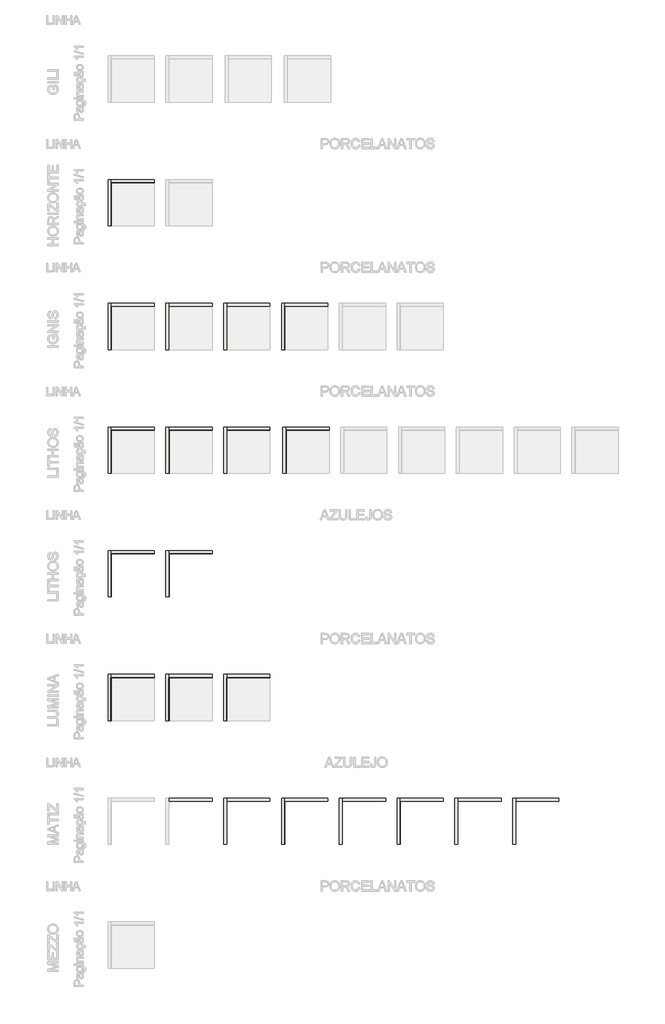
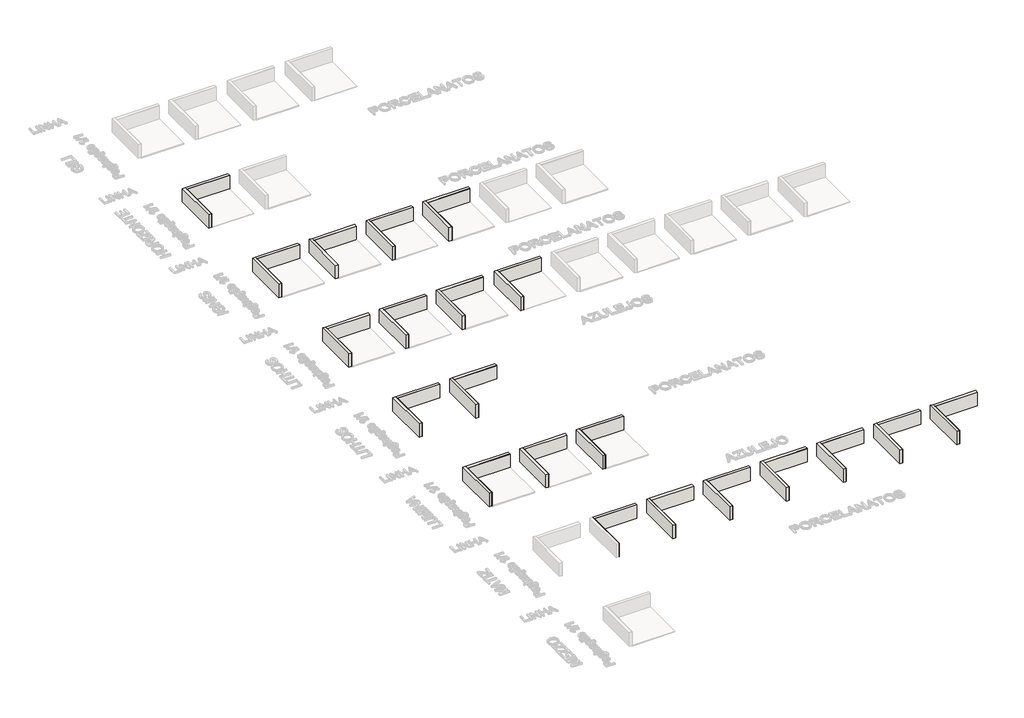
# One storey, part 3 of 22: 83 walls.
"""IFC4 building model written with IfcOpenShell, lengths in millimetres."""

from ifc_helpers import new_model, si_unit, origin, origin_with_axes, place, context, project, spatial, polyline, outline, extrude, faceted_brep, element, save

model = new_model("IFC4")

# Units and contexts
model_context = context("Model", 3, world=origin())
ifc_project = project(units=[si_unit("LENGTHUNIT", "METRE", prefix="MILLI")], contexts=[model_context])

# Site, building, storey
site = spatial("IfcSite", under=ifc_project)
building = spatial("IfcBuilding", under=site)
storey = spatial("IfcBuildingStorey", under=building, Name="Showroom (N.A.)", Elevation=0.0)

# Walls
placement = place(None, origin())
element("IfcWall", 1, ObjectType="Portinari_Lithos_BK_DECOR_29,1x87,7_Pag-1/1", at=placement, inside=storey, context=model_context, shape_type="Brep", body=[
    faceted_brep([(-110055.7516826, -131037.5892857, 0.0), (-110038.7516826, -131037.5892857, 0.0), (-107054.0516826, -131037.5892857, 0.0), (-107054.0516826, -131037.5892857, 1000.0), (-110038.7516826, -131037.5892857, 1000.0), (-110055.7516826, -131037.5892857, 1000.0), (-110055.7516826, -131020.5892857, 0.0), (-110055.7516826, -131020.5892857, 1000.0), (-107054.0516826, -131020.5892857, 1000.0), (-107054.0516826, -131020.5892857, 0.0)], [[[0, 1, 2, 3, 4, 5]], [[6, 7, 8, 9]], [[2, 1, 0, 6, 9]], [[3, 2, 9, 8]], [[5, 4, 3, 8, 7]], [[0, 5, 7, 6]]]),
])
element("IfcWall", 2, ObjectType="Portinari_Lithos_BK_DECOR_29,1x87,7_Pag-1/1", at=placement, inside=storey, context=model_context, shape_type="SweptSolid", body=[
    extrude(outline(polyline([(-110055.7516826, -134022.2892857), (-110055.7516826, -131037.5892857), (-110038.7516826, -131037.5892857), (-110038.7516826, -134022.2892857), (-110055.7516826, -134022.2892857)])), origin_with_axes(), (0.0, 0.0, 1.0), 1000.0),
])
element("IfcWall", 3, ObjectType="Portinari_Lithos_SGR_DECOR_29,1x87,7_Pag-1/1", at=placement, inside=storey, context=model_context, shape_type="Brep", body=[
    faceted_brep([(-106054.0516826, -131039.2892857, 0.0), (-106037.0516826, -131039.2892857, 0.0), (-103054.0516826, -131039.2892857, 0.0), (-103054.0516826, -131039.2892857, 1000.0), (-106037.0516826, -131039.2892857, 1000.0), (-106054.0516826, -131039.2892857, 1000.0), (-106054.0516826, -131022.2892857, 0.0), (-106054.0516826, -131022.2892857, 1000.0), (-103054.0516826, -131022.2892857, 1000.0), (-103054.0516826, -131022.2892857, 0.0)], [[[0, 1, 2, 3, 4, 5]], [[6, 7, 8, 9]], [[2, 1, 0, 6, 9]], [[3, 2, 9, 8]], [[5, 4, 3, 8, 7]], [[0, 5, 7, 6]]]),
])
element("IfcWall", 4, ObjectType="Portinari_Lithos_SGR_DECOR_29,1x87,7_Pag-1/1", at=placement, inside=storey, context=model_context, shape_type="SweptSolid", body=[
    extrude(outline(polyline([(-106054.0516826, -134022.2892857), (-106054.0516826, -131039.2892857), (-106037.0516826, -131039.2892857), (-106037.0516826, -134022.2892857), (-106054.0516826, -134022.2892857)])), origin_with_axes(), (0.0, 0.0, 1.0), 1000.0),
])
element("IfcWall", 5, ObjectType="Portinari_Matiz_BE_LUX_8,24x25,75_Pag-1/1", at=placement, inside=storey, context=model_context, shape_type="Brep", body=[
    faceted_brep([(-103054.0516826, -148149.0310434, 0.0), (-106054.0516826, -148149.0310434, 0.0), (-106054.0516826, -148149.0310434, 1000.0), (-103054.0516826, -148149.0310434, 1000.0), (-103054.0516826, -148161.4310434, 0.0), (-103054.0516826, -148161.4310434, 1000.0), (-106041.6516826, -148161.4310434, 1000.0), (-106054.0516826, -148161.4310434, 1000.0), (-106054.0516826, -148161.4310434, 0.0), (-106041.6516826, -148161.4310434, 0.0)], [[[0, 1, 2, 3]], [[4, 5, 6, 7, 8, 9]], [[1, 0, 4, 9, 8]], [[3, 2, 7, 6, 5]], [[0, 3, 5, 4]], [[2, 1, 8, 7]]]),
])
element("IfcWall", 6, ObjectType="Portinari_Matiz_BE_LUX_8,24x25,75_Pag-1/1", at=placement, inside=storey, context=model_context, shape_type="SweptSolid", body=[
    extrude(outline(polyline([(-106054.0516826, -151149.0310434), (-106054.0516826, -148161.4310434), (-106041.6516826, -148161.4310434), (-106041.6516826, -151149.0310434), (-106054.0516826, -151149.0310434)])), origin_with_axes(), (0.0, 0.0, 1.0), 1000.0),
])
element("IfcWall", 7, ObjectType="Portinari_Matiz_OG_LUX_8,24x25,75_Pag-1/1", at=placement, inside=storey, context=model_context, shape_type="Brep", body=[
    faceted_brep([(-99054.0516826, -148149.0310434, 0.0), (-102054.0516826, -148149.0310434, 0.0), (-102054.0516826, -148149.0310434, 1000.0), (-99054.0516826, -148149.0310434, 1000.0), (-99054.0516826, -148161.4310434, 0.0), (-99054.0516826, -148161.4310434, 1000.0), (-102041.6516826, -148161.4310434, 1000.0), (-102054.0516826, -148161.4310434, 1000.0), (-102054.0516826, -148161.4310434, 0.0), (-102041.6516826, -148161.4310434, 0.0)], [[[0, 1, 2, 3]], [[4, 5, 6, 7, 8, 9]], [[1, 0, 4, 9, 8]], [[3, 2, 7, 6, 5]], [[0, 3, 5, 4]], [[2, 1, 8, 7]]]),
])
element("IfcWall", 8, ObjectType="Portinari_Matiz_OG_LUX_8,24x25,75_Pag-1/1", at=placement, inside=storey, context=model_context, shape_type="SweptSolid", body=[
    extrude(outline(polyline([(-102054.0516826, -151149.0310434), (-102054.0516826, -148161.4310434), (-102041.6516826, -148161.4310434), (-102041.6516826, -151149.0310434), (-102054.0516826, -151149.0310434)])), origin_with_axes(), (0.0, 0.0, 1.0), 1000.0),
])
element("IfcWall", 9, ObjectType="Portinari_Matiz_PK_LUX_8,24x25,75_Pag-1/1", at=placement, inside=storey, context=model_context, shape_type="Brep", body=[
    faceted_brep([(-95054.0516826, -148149.0310434, 0.0), (-98054.0516826, -148149.0310434, 0.0), (-98054.0516826, -148149.0310434, 1000.0), (-95054.0516826, -148149.0310434, 1000.0), (-95054.0516826, -148161.4310434, 0.0), (-95054.0516826, -148161.4310434, 1000.0), (-98041.6516826, -148161.4310434, 1000.0), (-98054.0516826, -148161.4310434, 1000.0), (-98054.0516826, -148161.4310434, 0.0), (-98041.6516826, -148161.4310434, 0.0)], [[[0, 1, 2, 3]], [[4, 5, 6, 7, 8, 9]], [[1, 0, 4, 9, 8]], [[3, 2, 7, 6, 5]], [[0, 3, 5, 4]], [[2, 1, 8, 7]]]),
])
element("IfcWall", 10, ObjectType="Portinari_Matiz_PK_LUX_8,24x25,75_Pag-1/1", at=placement, inside=storey, context=model_context, shape_type="SweptSolid", body=[
    extrude(outline(polyline([(-98054.0516826, -151149.0310434), (-98054.0516826, -148161.4310434), (-98041.6516826, -148161.4310434), (-98041.6516826, -151149.0310434), (-98054.0516826, -151149.0310434)])), origin_with_axes(), (0.0, 0.0, 1.0), 1000.0),
])
element("IfcWall", 11, ObjectType="Portinari_Matiz_BL_LUX_8,24x25,75_Pag-1/1", at=placement, inside=storey, context=model_context, shape_type="Brep", body=[
    faceted_brep([(-91054.0516826, -148149.0310434, 0.0), (-94054.0516826, -148149.0310434, 0.0), (-94054.0516826, -148149.0310434, 1000.0), (-91054.0516826, -148149.0310434, 1000.0), (-91054.0516826, -148161.4310434, 0.0), (-91054.0516826, -148161.4310434, 1000.0), (-94041.6516826, -148161.4310434, 1000.0), (-94054.0516826, -148161.4310434, 1000.0), (-94054.0516826, -148161.4310434, 0.0), (-94041.6516826, -148161.4310434, 0.0)], [[[0, 1, 2, 3]], [[4, 5, 6, 7, 8, 9]], [[1, 0, 4, 9, 8]], [[3, 2, 7, 6, 5]], [[0, 3, 5, 4]], [[2, 1, 8, 7]]]),
])
element("IfcWall", 12, ObjectType="Portinari_Matiz_BL_LUX_8,24x25,75_Pag-1/1", at=placement, inside=storey, context=model_context, shape_type="SweptSolid", body=[
    extrude(outline(polyline([(-94054.0516826, -151149.0310434), (-94054.0516826, -148161.4310434), (-94041.6516826, -148161.4310434), (-94041.6516826, -151149.0310434), (-94054.0516826, -151149.0310434)])), origin_with_axes(), (0.0, 0.0, 1.0), 1000.0),
])
element("IfcWall", 13, ObjectType="Portinari_Matiz_SBL_LUX_8,24x25,75_Pag-1/1", at=placement, inside=storey, context=model_context, shape_type="Brep", body=[
    faceted_brep([(-87054.0516826, -148149.0310434, 0.0), (-90054.0516826, -148149.0310434, 0.0), (-90054.0516826, -148149.0310434, 1000.0), (-87054.0516826, -148149.0310434, 1000.0), (-87054.0516826, -148161.4310434, 0.0), (-87054.0516826, -148161.4310434, 1000.0), (-90041.6516826, -148161.4310434, 1000.0), (-90054.0516826, -148161.4310434, 1000.0), (-90054.0516826, -148161.4310434, 0.0), (-90041.6516826, -148161.4310434, 0.0)], [[[0, 1, 2, 3]], [[4, 5, 6, 7, 8, 9]], [[1, 0, 4, 9, 8]], [[3, 2, 7, 6, 5]], [[0, 3, 5, 4]], [[2, 1, 8, 7]]]),
])
element("IfcWall", 14, ObjectType="Portinari_Matiz_SBL_LUX_8,24x25,75_Pag-1/1", at=placement, inside=storey, context=model_context, shape_type="SweptSolid", body=[
    extrude(outline(polyline([(-90054.0516826, -151149.0310434), (-90054.0516826, -148161.4310434), (-90041.6516826, -148161.4310434), (-90041.6516826, -151149.0310434), (-90054.0516826, -151149.0310434)])), origin_with_axes(), (0.0, 0.0, 1.0), 1000.0),
])
element("IfcWall", 15, ObjectType="Portinari_Matiz_SGN_LUX_8,24x25,75_Pag-1/1", at=placement, inside=storey, context=model_context, shape_type="Brep", body=[
    faceted_brep([(-83054.0516826, -148149.0310434, 0.0), (-86054.0516826, -148149.0310434, 0.0), (-86054.0516826, -148149.0310434, 1000.0), (-83054.0516826, -148149.0310434, 1000.0), (-83054.0516826, -148161.4310434, 0.0), (-83054.0516826, -148161.4310434, 1000.0), (-86041.6516826, -148161.4310434, 1000.0), (-86054.0516826, -148161.4310434, 1000.0), (-86054.0516826, -148161.4310434, 0.0), (-86041.6516826, -148161.4310434, 0.0)], [[[0, 1, 2, 3]], [[4, 5, 6, 7, 8, 9]], [[1, 0, 4, 9, 8]], [[3, 2, 7, 6, 5]], [[0, 3, 5, 4]], [[2, 1, 8, 7]]]),
])
element("IfcWall", 16, ObjectType="Portinari_Matiz_SGN_LUX_8,24x25,75_Pag-1/1", at=placement, inside=storey, context=model_context, shape_type="SweptSolid", body=[
    extrude(outline(polyline([(-86054.0516826, -151149.0310434), (-86054.0516826, -148161.4310434), (-86041.6516826, -148161.4310434), (-86041.6516826, -151149.0310434), (-86054.0516826, -151149.0310434)])), origin_with_axes(), (0.0, 0.0, 1.0), 1000.0),
])
element("IfcWall", 17, ObjectType="Portinari_Matiz_WH_LUX_8,24x25,75_Pag-1/1", at=placement, inside=storey, context=model_context, shape_type="Brep", body=[
    faceted_brep([(-79054.0516826, -148149.0310434, 0.0), (-82054.0516826, -148149.0310434, 0.0), (-82054.0516826, -148149.0310434, 1000.0), (-79054.0516826, -148149.0310434, 1000.0), (-79054.0516826, -148161.4310434, 0.0), (-79054.0516826, -148161.4310434, 1000.0), (-82041.6516826, -148161.4310434, 1000.0), (-82054.0516826, -148161.4310434, 1000.0), (-82054.0516826, -148161.4310434, 0.0), (-82041.6516826, -148161.4310434, 0.0)], [[[0, 1, 2, 3]], [[4, 5, 6, 7, 8, 9]], [[1, 0, 4, 9, 8]], [[3, 2, 7, 6, 5]], [[0, 3, 5, 4]], [[2, 1, 8, 7]]]),
])
element("IfcWall", 18, ObjectType="Portinari_Matiz_WH_LUX_8,24x25,75_Pag-1/1", at=placement, inside=storey, context=model_context, shape_type="SweptSolid", body=[
    extrude(outline(polyline([(-82054.0516826, -151149.0310434), (-82054.0516826, -148161.4310434), (-82041.6516826, -148161.4310434), (-82041.6516826, -151149.0310434), (-82054.0516826, -151149.0310434)])), origin_with_axes(), (0.0, 0.0, 1.0), 1000.0),
])
element("IfcWall", 19, ObjectType="Portinari_Horizonte_BL_MLX_15x15_Pag-1/1", at=placement, inside=storey, context=model_context, shape_type="Brep", body=[
    faceted_brep([(-107054.0516826, -105332.1766491, 0.0), (-110054.0516826, -105332.1766491, 0.0), (-110054.0516826, -105332.1766491, 1000.0), (-107054.0516826, -105332.1766491, 1000.0), (-107054.0516826, -105344.5766491, 0.0), (-107054.0516826, -105344.5766491, 1000.0), (-110041.6516826, -105344.5766491, 1000.0), (-110054.0516826, -105344.5766491, 1000.0), (-110054.0516826, -105344.5766491, 0.0), (-110041.6516826, -105344.5766491, 0.0)], [[[0, 1, 2, 3]], [[4, 5, 6, 7, 8, 9]], [[1, 0, 4, 9, 8]], [[3, 2, 7, 6, 5]], [[0, 3, 5, 4]], [[2, 1, 8, 7]]]),
])
element("IfcWall", 20, ObjectType="Portinari_Horizonte_BL_MLX_15x15_Pag-1/1", at=placement, inside=storey, context=model_context, shape_type="SweptSolid", body=[
    extrude(outline(polyline([(-110054.0516826, -108332.1766491), (-110054.0516826, -105344.5766491), (-110041.6516826, -105344.5766491), (-110041.6516826, -108332.1766491), (-110054.0516826, -108332.1766491)])), origin_with_axes(), (0.0, 0.0, 1.0), 1000.0),
])
element("IfcWall", 21, ObjectType="Portinari_Ignis_Decor_GR_NAT_15x15_Pag-1/1", at=placement, inside=storey, context=model_context, shape_type="Brep", body=[
    faceted_brep([(-107054.0516826, -113895.547528, 0.0), (-110054.0516826, -113895.547528, 0.0), (-110054.0516826, -113895.547528, 1000.0), (-107054.0516826, -113895.547528, 1000.0), (-107054.0516826, -113907.947528, 0.0), (-107054.0516826, -113907.947528, 1000.0), (-110041.6516826, -113907.947528, 1000.0), (-110054.0516826, -113907.947528, 1000.0), (-110054.0516826, -113907.947528, 0.0), (-110041.6516826, -113907.947528, 0.0)], [[[0, 1, 2, 3]], [[4, 5, 6, 7, 8, 9]], [[1, 0, 4, 9, 8]], [[3, 2, 7, 6, 5]], [[0, 3, 5, 4]], [[2, 1, 8, 7]]]),
])
element("IfcWall", 22, ObjectType="Portinari_Ignis_Decor_GR_NAT_15x15_Pag-1/1", at=placement, inside=storey, context=model_context, shape_type="SweptSolid", body=[
    extrude(outline(polyline([(-110054.0516826, -116895.547528), (-110054.0516826, -113907.947528), (-110041.6516826, -113907.947528), (-110041.6516826, -116895.547528), (-110054.0516826, -116895.547528)])), origin_with_axes(), (0.0, 0.0, 1.0), 1000.0),
])
element("IfcWall", 23, ObjectType="Portinari_Ignis_Decor_BK_NAT_15x15_Pag-1/1", at=placement, inside=storey, context=model_context, shape_type="Brep", body=[
    faceted_brep([(-103054.0516826, -113895.547528, 0.0), (-106054.0516826, -113895.547528, 0.0), (-106054.0516826, -113895.547528, 1000.0), (-103054.0516826, -113895.547528, 1000.0), (-103054.0516826, -113907.947528, 0.0), (-103054.0516826, -113907.947528, 1000.0), (-106041.6516826, -113907.947528, 1000.0), (-106054.0516826, -113907.947528, 1000.0), (-106054.0516826, -113907.947528, 0.0), (-106041.6516826, -113907.947528, 0.0)], [[[0, 1, 2, 3]], [[4, 5, 6, 7, 8, 9]], [[1, 0, 4, 9, 8]], [[3, 2, 7, 6, 5]], [[0, 3, 5, 4]], [[2, 1, 8, 7]]]),
])
element("IfcWall", 24, ObjectType="Portinari_Ignis_Decor_BK_NAT_15x15_Pag-1/1", at=placement, inside=storey, context=model_context, shape_type="SweptSolid", body=[
    extrude(outline(polyline([(-106054.0516826, -116895.547528), (-106054.0516826, -113907.947528), (-106041.6516826, -113907.947528), (-106041.6516826, -116895.547528), (-106054.0516826, -116895.547528)])), origin_with_axes(), (0.0, 0.0, 1.0), 1000.0),
])
element("IfcWall", 25, ObjectType="Portinari_Ignis_GR_HARD_87,7x87,7_Pag-1/1", at=placement, inside=storey, context=model_context, shape_type="Brep", body=[
    faceted_brep([(-99054.0516826, -113895.547528, 0.0), (-102054.0516826, -113895.547528, 0.0), (-102054.0516826, -113895.547528, 1000.0), (-99054.0516826, -113895.547528, 1000.0), (-99054.0516826, -113909.547528, 0.0), (-99054.0516826, -113909.547528, 1000.0), (-102040.0516826, -113909.547528, 1000.0), (-102054.0516826, -113909.547528, 1000.0), (-102054.0516826, -113909.547528, 0.0), (-102040.0516826, -113909.547528, 0.0)], [[[0, 1, 2, 3]], [[4, 5, 6, 7, 8, 9]], [[1, 0, 4, 9, 8]], [[3, 2, 7, 6, 5]], [[0, 3, 5, 4]], [[2, 1, 8, 7]]]),
])
element("IfcWall", 26, ObjectType="Portinari_Ignis_GR_HARD_87,7x87,7_Pag-1/1", at=placement, inside=storey, context=model_context, shape_type="SweptSolid", body=[
    extrude(outline(polyline([(-102054.0516826, -116895.547528), (-102054.0516826, -113909.547528), (-102040.0516826, -113909.547528), (-102040.0516826, -116895.547528), (-102054.0516826, -116895.547528)])), origin_with_axes(), (0.0, 0.0, 1.0), 1000.0),
])
element("IfcWall", 27, ObjectType="Portinari_Ignis_BK_NAT_87,7x87,7_Pag-1/1", at=placement, inside=storey, context=model_context, shape_type="Brep", body=[
    faceted_brep([(-95054.0516826, -113895.547528, 0.0), (-98054.0516826, -113895.547528, 0.0), (-98054.0516826, -113895.547528, 1000.0), (-95054.0516826, -113895.547528, 1000.0), (-95054.0516826, -113909.547528, 0.0), (-95054.0516826, -113909.547528, 1000.0), (-98040.0516826, -113909.547528, 1000.0), (-98054.0516826, -113909.547528, 1000.0), (-98054.0516826, -113909.547528, 0.0), (-98040.0516826, -113909.547528, 0.0)], [[[0, 1, 2, 3]], [[4, 5, 6, 7, 8, 9]], [[1, 0, 4, 9, 8]], [[3, 2, 7, 6, 5]], [[0, 3, 5, 4]], [[2, 1, 8, 7]]]),
])
element("IfcWall", 28, ObjectType="Portinari_Ignis_BK_NAT_87,7x87,7_Pag-1/1", at=placement, inside=storey, context=model_context, shape_type="SweptSolid", body=[
    extrude(outline(polyline([(-98054.0516826, -116895.547528), (-98054.0516826, -113909.547528), (-98040.0516826, -113909.547528), (-98040.0516826, -116895.547528), (-98054.0516826, -116895.547528)])), origin_with_axes(), (0.0, 0.0, 1.0), 1000.0),
])
element("IfcWall", 29, ObjectType="Portinari_Lithos_BK_NAT_120x120_Pag-1/1", at=placement, inside=storey, context=model_context, shape_type="Brep", body=[
    faceted_brep([(-107054.0516826, -122458.9184068, 0.0), (-110054.0516826, -122458.9184068, 0.0), (-110054.0516826, -122458.9184068, 1000.0), (-107054.0516826, -122458.9184068, 1000.0), (-107054.0516826, -122473.1184068, 0.0), (-107054.0516826, -122473.1184068, 1000.0), (-110039.8516826, -122473.1184068, 1000.0), (-110054.0516826, -122473.1184068, 1000.0), (-110054.0516826, -122473.1184068, 0.0), (-110039.8516826, -122473.1184068, 0.0)], [[[0, 1, 2, 3]], [[4, 5, 6, 7, 8, 9]], [[1, 0, 4, 9, 8]], [[3, 2, 7, 6, 5]], [[0, 3, 5, 4]], [[2, 1, 8, 7]]]),
])
element("IfcWall", 30, ObjectType="Portinari_Lithos_BK_NAT_120x120_Pag-1/1", at=placement, inside=storey, context=model_context, shape_type="SweptSolid", body=[
    extrude(outline(polyline([(-110054.0516826, -125458.9184068), (-110054.0516826, -122473.1184068), (-110039.8516826, -122473.1184068), (-110039.8516826, -125458.9184068), (-110054.0516826, -125458.9184068)])), origin_with_axes(), (0.0, 0.0, 1.0), 1000.0),
])
element("IfcWall", 31, ObjectType="Portinari_Lithos_GR_NAT_120x120_Pag-1/1", at=placement, inside=storey, context=model_context, shape_type="Brep", body=[
    faceted_brep([(-103054.0516826, -122458.9184068, 0.0), (-106054.0516826, -122458.9184068, 0.0), (-106054.0516826, -122458.9184068, 1000.0), (-103054.0516826, -122458.9184068, 1000.0), (-103054.0516826, -122473.1184068, 0.0), (-103054.0516826, -122473.1184068, 1000.0), (-106039.8516826, -122473.1184068, 1000.0), (-106054.0516826, -122473.1184068, 1000.0), (-106054.0516826, -122473.1184068, 0.0), (-106039.8516826, -122473.1184068, 0.0)], [[[0, 1, 2, 3]], [[4, 5, 6, 7, 8, 9]], [[1, 0, 4, 9, 8]], [[3, 2, 7, 6, 5]], [[0, 3, 5, 4]], [[2, 1, 8, 7]]]),
])
element("IfcWall", 32, ObjectType="Portinari_Lithos_GR_NAT_120x120_Pag-1/1", at=placement, inside=storey, context=model_context, shape_type="SweptSolid", body=[
    extrude(outline(polyline([(-106054.0516826, -125458.9184068), (-106054.0516826, -122473.1184068), (-106039.8516826, -122473.1184068), (-106039.8516826, -125458.9184068), (-106054.0516826, -125458.9184068)])), origin_with_axes(), (0.0, 0.0, 1.0), 1000.0),
])
element("IfcWall", 33, ObjectType="Portinari_Lithos_SGR_NAT_120x120_Pag-1/1", at=placement, inside=storey, context=model_context, shape_type="Brep", body=[
    faceted_brep([(-99054.0516826, -122458.9184068, 0.0), (-102054.0516826, -122458.9184068, 0.0), (-102054.0516826, -122458.9184068, 1000.0), (-99054.0516826, -122458.9184068, 1000.0), (-99054.0516826, -122473.1184068, 0.0), (-99054.0516826, -122473.1184068, 1000.0), (-102039.8516826, -122473.1184068, 1000.0), (-102054.0516826, -122473.1184068, 1000.0), (-102054.0516826, -122473.1184068, 0.0), (-102039.8516826, -122473.1184068, 0.0)], [[[0, 1, 2, 3]], [[4, 5, 6, 7, 8, 9]], [[1, 0, 4, 9, 8]], [[3, 2, 7, 6, 5]], [[0, 3, 5, 4]], [[2, 1, 8, 7]]]),
])
element("IfcWall", 34, ObjectType="Portinari_Lithos_SGR_NAT_120x120_Pag-1/1", at=placement, inside=storey, context=model_context, shape_type="SweptSolid", body=[
    extrude(outline(polyline([(-102054.0516826, -125458.9184068), (-102054.0516826, -122473.1184068), (-102039.8516826, -122473.1184068), (-102039.8516826, -125458.9184068), (-102054.0516826, -125458.9184068)])), origin_with_axes(), (0.0, 0.0, 1.0), 1000.0),
])
element("IfcWall", 35, ObjectType="Portinari_Lithos_BK_HARD_87,7x87,7_Pag-1/1", at=placement, inside=storey, context=model_context, shape_type="Brep", body=[
    faceted_brep([(-94954.0516826, -122458.9184068, 0.0), (-97954.0516826, -122458.9184068, 0.0), (-97954.0516826, -122458.9184068, 1000.0), (-94954.0516826, -122458.9184068, 1000.0), (-94954.0516826, -122472.9184068, 0.0), (-94954.0516826, -122472.9184068, 1000.0), (-97940.0516826, -122472.9184068, 1000.0), (-97954.0516826, -122472.9184068, 1000.0), (-97954.0516826, -122472.9184068, 0.0), (-97940.0516826, -122472.9184068, 0.0)], [[[0, 1, 2, 3]], [[4, 5, 6, 7, 8, 9]], [[1, 0, 4, 9, 8]], [[3, 2, 7, 6, 5]], [[0, 3, 5, 4]], [[2, 1, 8, 7]]]),
])
element("IfcWall", 36, ObjectType="Portinari_Lithos_BK_HARD_87,7x87,7_Pag-1/1", at=placement, inside=storey, context=model_context, shape_type="SweptSolid", body=[
    extrude(outline(polyline([(-97954.0516826, -125458.9184068), (-97954.0516826, -122472.9184068), (-97940.0516826, -122472.9184068), (-97940.0516826, -125458.9184068), (-97954.0516826, -125458.9184068)])), origin_with_axes(), (0.0, 0.0, 1.0), 1000.0),
])
element("IfcWall", 37, ObjectType="Portinari_Lumina_WH_NAT_120x120_Pag-1/1", at=placement, inside=storey, context=model_context, shape_type="Brep", body=[
    faceted_brep([(-107054.0516826, -139585.6601645, 0.0), (-110054.0516826, -139585.6601645, 0.0), (-110054.0516826, -139585.6601645, 1000.0), (-107054.0516826, -139585.6601645, 1000.0), (-107054.0516826, -139599.8601645, 0.0), (-107054.0516826, -139599.8601645, 1000.0), (-110039.8516826, -139599.8601645, 1000.0), (-110054.0516826, -139599.8601645, 1000.0), (-110054.0516826, -139599.8601645, 0.0), (-110039.8516826, -139599.8601645, 0.0)], [[[0, 1, 2, 3]], [[4, 5, 6, 7, 8, 9]], [[1, 0, 4, 9, 8]], [[3, 2, 7, 6, 5]], [[0, 3, 5, 4]], [[2, 1, 8, 7]]]),
])
element("IfcWall", 38, ObjectType="Portinari_Lumina_WH_NAT_120x120_Pag-1/1", at=placement, inside=storey, context=model_context, shape_type="SweptSolid", body=[
    extrude(outline(polyline([(-110054.0516826, -142585.6601645), (-110054.0516826, -139599.8601645), (-110039.8516826, -139599.8601645), (-110039.8516826, -142585.6601645), (-110054.0516826, -142585.6601645)])), origin_with_axes(), (0.0, 0.0, 1.0), 1000.0),
])
element("IfcWall", 39, ObjectType="Portinari_Lumina_WH_POL_120x120_Pag-1/1", at=placement, inside=storey, context=model_context, shape_type="Brep", body=[
    faceted_brep([(-103054.0516826, -139585.6601645, 0.0), (-106054.0516826, -139585.6601645, 0.0), (-106054.0516826, -139585.6601645, 1000.0), (-103054.0516826, -139585.6601645, 1000.0), (-103054.0516826, -139599.8601645, 0.0), (-103054.0516826, -139599.8601645, 1000.0), (-106039.8516826, -139599.8601645, 1000.0), (-106054.0516826, -139599.8601645, 1000.0), (-106054.0516826, -139599.8601645, 0.0), (-106039.8516826, -139599.8601645, 0.0)], [[[0, 1, 2, 3]], [[4, 5, 6, 7, 8, 9]], [[1, 0, 4, 9, 8]], [[3, 2, 7, 6, 5]], [[0, 3, 5, 4]], [[2, 1, 8, 7]]]),
])
element("IfcWall", 40, ObjectType="Portinari_Lumina_WH_POL_120x120_Pag-1/1", at=placement, inside=storey, context=model_context, shape_type="SweptSolid", body=[
    extrude(outline(polyline([(-106054.0516826, -142585.6601645), (-106054.0516826, -139599.8601645), (-106039.8516826, -139599.8601645), (-106039.8516826, -142585.6601645), (-106054.0516826, -142585.6601645)])), origin_with_axes(), (0.0, 0.0, 1.0), 1000.0),
])
element("IfcWall", 41, ObjectType="Portinari_Lumina_WH_POL_120x270_Pag-1/1", at=placement, inside=storey, context=model_context, shape_type="Brep", body=[
    faceted_brep([(-99054.0516826, -139585.6601645, 0.0), (-102054.0516826, -139585.6601645, 0.0), (-102054.0516826, -139585.6601645, 1000.0), (-99054.0516826, -139585.6601645, 1000.0), (-99054.0516826, -139599.6601645, 0.0), (-99054.0516826, -139599.6601645, 1000.0), (-102040.0516826, -139599.6601645, 1000.0), (-102054.0516826, -139599.6601645, 1000.0), (-102054.0516826, -139599.6601645, 0.0), (-102040.0516826, -139599.6601645, 0.0)], [[[0, 1, 2, 3]], [[4, 5, 6, 7, 8, 9]], [[1, 0, 4, 9, 8]], [[3, 2, 7, 6, 5]], [[0, 3, 5, 4]], [[2, 1, 8, 7]]]),
])
element("IfcWall", 42, ObjectType="Portinari_Lumina_WH_POL_120x270_Pag-1/1", at=placement, inside=storey, context=model_context, shape_type="SweptSolid", body=[
    extrude(outline(polyline([(-102054.0516826, -142585.6601645), (-102054.0516826, -139599.6601645), (-102040.0516826, -139599.6601645), (-102040.0516826, -142585.6601645), (-102054.0516826, -142585.6601645)])), origin_with_axes(), (0.0, 0.0, 1.0), 1000.0),
])
element("IfcWall", 43, ObjectType="Wall 1", at=placement, inside=storey, context=model_context, shape_type="Brep", body=[
    faceted_brep([(-110054.0516826, -108332.1766491, 0.0), (-110054.0516826, -105332.1766491, 0.0), (-110054.0516826, -105132.1766491, 0.0), (-110054.0516826, -105132.1766491, 1000.0), (-110054.0516826, -105332.1766491, 1000.0), (-110054.0516826, -108332.1766491, 1000.0), (-110254.0516826, -108332.1766491, 0.0), (-110254.0516826, -108332.1766491, 1000.0), (-110254.0516826, -105132.1766491, 1000.0), (-110254.0516826, -105132.1766491, 0.0)], [[[0, 1, 2, 3, 4, 5]], [[6, 7, 8, 9]], [[2, 1, 0, 6, 9]], [[5, 4, 3, 8, 7]], [[0, 5, 7, 6]], [[3, 2, 9, 8]]]),
])
element("IfcWall", 44, ObjectType="Wall 1", at=placement, inside=storey, context=model_context, shape_type="SweptSolid", body=[
    extrude(outline(polyline([(-107054.0516826, -105332.1766491), (-110054.0516826, -105332.1766491), (-110054.0516826, -105132.1766491), (-107054.0516826, -105132.1766491), (-107054.0516826, -105332.1766491)])), origin_with_axes(), (0.0, 0.0, 1.0), 1000.0),
])
element("IfcWall", 45, ObjectType="Wall 1", at=placement, inside=storey, context=model_context, shape_type="Brep", body=[
    faceted_brep([(-110054.0516826, -116895.547528, 0.0), (-110054.0516826, -113895.547528, 0.0), (-110054.0516826, -113695.547528, 0.0), (-110054.0516826, -113695.547528, 1000.0), (-110054.0516826, -113895.547528, 1000.0), (-110054.0516826, -116895.547528, 1000.0), (-110254.0516826, -116895.547528, 0.0), (-110254.0516826, -116895.547528, 1000.0), (-110254.0516826, -113695.547528, 1000.0), (-110254.0516826, -113695.547528, 0.0)], [[[0, 1, 2, 3, 4, 5]], [[6, 7, 8, 9]], [[2, 1, 0, 6, 9]], [[5, 4, 3, 8, 7]], [[0, 5, 7, 6]], [[3, 2, 9, 8]]]),
])
element("IfcWall", 46, ObjectType="Wall 1", at=placement, inside=storey, context=model_context, shape_type="SweptSolid", body=[
    extrude(outline(polyline([(-107054.0516826, -113895.547528), (-110054.0516826, -113895.547528), (-110054.0516826, -113695.547528), (-107054.0516826, -113695.547528), (-107054.0516826, -113895.547528)])), origin_with_axes(), (0.0, 0.0, 1.0), 1000.0),
])
element("IfcWall", 47, ObjectType="Wall 1", at=placement, inside=storey, context=model_context, shape_type="Brep", body=[
    faceted_brep([(-106054.0516826, -116895.547528, 0.0), (-106054.0516826, -113895.547528, 0.0), (-106054.0516826, -113695.547528, 0.0), (-106054.0516826, -113695.547528, 1000.0), (-106054.0516826, -113895.547528, 1000.0), (-106054.0516826, -116895.547528, 1000.0), (-106254.0516826, -116895.547528, 0.0), (-106254.0516826, -116895.547528, 1000.0), (-106254.0516826, -113695.547528, 1000.0), (-106254.0516826, -113695.547528, 0.0)], [[[0, 1, 2, 3, 4, 5]], [[6, 7, 8, 9]], [[2, 1, 0, 6, 9]], [[5, 4, 3, 8, 7]], [[0, 5, 7, 6]], [[3, 2, 9, 8]]]),
])
element("IfcWall", 48, ObjectType="Wall 1", at=placement, inside=storey, context=model_context, shape_type="SweptSolid", body=[
    extrude(outline(polyline([(-103054.0516826, -113895.547528), (-106054.0516826, -113895.547528), (-106054.0516826, -113695.547528), (-103054.0516826, -113695.547528), (-103054.0516826, -113895.547528)])), origin_with_axes(), (0.0, 0.0, 1.0), 1000.0),
])
element("IfcWall", 49, ObjectType="Wall 1", at=placement, inside=storey, context=model_context, shape_type="Brep", body=[
    faceted_brep([(-102054.0516826, -116895.547528, 0.0), (-102054.0516826, -113895.547528, 0.0), (-102054.0516826, -113695.547528, 0.0), (-102054.0516826, -113695.547528, 1000.0), (-102054.0516826, -113895.547528, 1000.0), (-102054.0516826, -116895.547528, 1000.0), (-102254.0516826, -116895.547528, 0.0), (-102254.0516826, -116895.547528, 1000.0), (-102254.0516826, -113695.547528, 1000.0), (-102254.0516826, -113695.547528, 0.0)], [[[0, 1, 2, 3, 4, 5]], [[6, 7, 8, 9]], [[2, 1, 0, 6, 9]], [[5, 4, 3, 8, 7]], [[0, 5, 7, 6]], [[3, 2, 9, 8]]]),
])
element("IfcWall", 50, ObjectType="Wall 1", at=placement, inside=storey, context=model_context, shape_type="SweptSolid", body=[
    extrude(outline(polyline([(-99054.0516826, -113895.547528), (-102054.0516826, -113895.547528), (-102054.0516826, -113695.547528), (-99054.0516826, -113695.547528), (-99054.0516826, -113895.547528)])), origin_with_axes(), (0.0, 0.0, 1.0), 1000.0),
])
element("IfcWall", 51, ObjectType="Wall 1", at=placement, inside=storey, context=model_context, shape_type="Brep", body=[
    faceted_brep([(-98054.0516826, -116895.547528, 0.0), (-98054.0516826, -113895.547528, 0.0), (-98054.0516826, -113695.547528, 0.0), (-98054.0516826, -113695.547528, 1000.0), (-98054.0516826, -113895.547528, 1000.0), (-98054.0516826, -116895.547528, 1000.0), (-98254.0516826, -116895.547528, 0.0), (-98254.0516826, -116895.547528, 1000.0), (-98254.0516826, -113695.547528, 1000.0), (-98254.0516826, -113695.547528, 0.0)], [[[0, 1, 2, 3, 4, 5]], [[6, 7, 8, 9]], [[2, 1, 0, 6, 9]], [[5, 4, 3, 8, 7]], [[0, 5, 7, 6]], [[3, 2, 9, 8]]]),
])
element("IfcWall", 52, ObjectType="Wall 1", at=placement, inside=storey, context=model_context, shape_type="SweptSolid", body=[
    extrude(outline(polyline([(-95054.0516826, -113895.547528), (-98054.0516826, -113895.547528), (-98054.0516826, -113695.547528), (-95054.0516826, -113695.547528), (-95054.0516826, -113895.547528)])), origin_with_axes(), (0.0, 0.0, 1.0), 1000.0),
])
element("IfcWall", 53, ObjectType="Wall 1", at=placement, inside=storey, context=model_context, shape_type="Brep", body=[
    faceted_brep([(-110054.0516826, -125458.9184068, 0.0), (-110054.0516826, -122458.9184068, 0.0), (-110054.0516826, -122258.9184068, 0.0), (-110054.0516826, -122258.9184068, 1000.0), (-110054.0516826, -122458.9184068, 1000.0), (-110054.0516826, -125458.9184068, 1000.0), (-110254.0516826, -125458.9184068, 0.0), (-110254.0516826, -125458.9184068, 1000.0), (-110254.0516826, -122258.9184068, 1000.0), (-110254.0516826, -122258.9184068, 0.0)], [[[0, 1, 2, 3, 4, 5]], [[6, 7, 8, 9]], [[2, 1, 0, 6, 9]], [[5, 4, 3, 8, 7]], [[0, 5, 7, 6]], [[3, 2, 9, 8]]]),
])
element("IfcWall", 54, ObjectType="Wall 1", at=placement, inside=storey, context=model_context, shape_type="SweptSolid", body=[
    extrude(outline(polyline([(-107054.0516826, -122458.9184068), (-110054.0516826, -122458.9184068), (-110054.0516826, -122258.9184068), (-107054.0516826, -122258.9184068), (-107054.0516826, -122458.9184068)])), origin_with_axes(), (0.0, 0.0, 1.0), 1000.0),
])
element("IfcWall", 55, ObjectType="Wall 1", at=placement, inside=storey, context=model_context, shape_type="Brep", body=[
    faceted_brep([(-106054.0516826, -125458.9184068, 0.0), (-106054.0516826, -122458.9184068, 0.0), (-106054.0516826, -122258.9184068, 0.0), (-106054.0516826, -122258.9184068, 1000.0), (-106054.0516826, -122458.9184068, 1000.0), (-106054.0516826, -125458.9184068, 1000.0), (-106254.0516826, -125458.9184068, 0.0), (-106254.0516826, -125458.9184068, 1000.0), (-106254.0516826, -122258.9184068, 1000.0), (-106254.0516826, -122258.9184068, 0.0)], [[[0, 1, 2, 3, 4, 5]], [[6, 7, 8, 9]], [[2, 1, 0, 6, 9]], [[5, 4, 3, 8, 7]], [[0, 5, 7, 6]], [[3, 2, 9, 8]]]),
])
element("IfcWall", 56, ObjectType="Wall 1", at=placement, inside=storey, context=model_context, shape_type="SweptSolid", body=[
    extrude(outline(polyline([(-103054.0516826, -122458.9184068), (-106054.0516826, -122458.9184068), (-106054.0516826, -122258.9184068), (-103054.0516826, -122258.9184068), (-103054.0516826, -122458.9184068)])), origin_with_axes(), (0.0, 0.0, 1.0), 1000.0),
])
element("IfcWall", 57, ObjectType="Wall 1", at=placement, inside=storey, context=model_context, shape_type="Brep", body=[
    faceted_brep([(-102054.0516826, -125458.9184068, 0.0), (-102054.0516826, -122458.9184068, 0.0), (-102054.0516826, -122258.9184068, 0.0), (-102054.0516826, -122258.9184068, 1000.0), (-102054.0516826, -122458.9184068, 1000.0), (-102054.0516826, -125458.9184068, 1000.0), (-102254.0516826, -125458.9184068, 0.0), (-102254.0516826, -125458.9184068, 1000.0), (-102254.0516826, -122258.9184068, 1000.0), (-102254.0516826, -122258.9184068, 0.0)], [[[0, 1, 2, 3, 4, 5]], [[6, 7, 8, 9]], [[2, 1, 0, 6, 9]], [[5, 4, 3, 8, 7]], [[0, 5, 7, 6]], [[3, 2, 9, 8]]]),
])
element("IfcWall", 58, ObjectType="Wall 1", at=placement, inside=storey, context=model_context, shape_type="SweptSolid", body=[
    extrude(outline(polyline([(-99054.0516826, -122458.9184068), (-102054.0516826, -122458.9184068), (-102054.0516826, -122258.9184068), (-99054.0516826, -122258.9184068), (-99054.0516826, -122458.9184068)])), origin_with_axes(), (0.0, 0.0, 1.0), 1000.0),
])
element("IfcWall", 59, ObjectType="Wall 1", at=placement, inside=storey, context=model_context, shape_type="Brep", body=[
    faceted_brep([(-97954.0516826, -125458.9184068, 0.0), (-97954.0516826, -122458.9184068, 0.0), (-97954.0516826, -122258.9184068, 0.0), (-97954.0516826, -122258.9184068, 1000.0), (-97954.0516826, -122458.9184068, 1000.0), (-97954.0516826, -125458.9184068, 1000.0), (-98154.0516826, -125458.9184068, 0.0), (-98154.0516826, -125458.9184068, 1000.0), (-98154.0516826, -122258.9184068, 1000.0), (-98154.0516826, -122258.9184068, 0.0)], [[[0, 1, 2, 3, 4, 5]], [[6, 7, 8, 9]], [[2, 1, 0, 6, 9]], [[5, 4, 3, 8, 7]], [[0, 5, 7, 6]], [[3, 2, 9, 8]]]),
])
element("IfcWall", 60, ObjectType="Wall 1", at=placement, inside=storey, context=model_context, shape_type="SweptSolid", body=[
    extrude(outline(polyline([(-94954.0516826, -122458.9184068), (-97954.0516826, -122458.9184068), (-97954.0516826, -122258.9184068), (-94954.0516826, -122258.9184068), (-94954.0516826, -122458.9184068)])), origin_with_axes(), (0.0, 0.0, 1.0), 1000.0),
])
element("IfcWall", 61, ObjectType="Wall 1", at=placement, inside=storey, context=model_context, shape_type="Brep", body=[
    faceted_brep([(-110054.0516826, -142585.6601645, 0.0), (-110054.0516826, -139585.6601645, 0.0), (-110054.0516826, -139385.6601645, 0.0), (-110054.0516826, -139385.6601645, 1000.0), (-110054.0516826, -139585.6601645, 1000.0), (-110054.0516826, -142585.6601645, 1000.0), (-110254.0516826, -142585.6601645, 0.0), (-110254.0516826, -142585.6601645, 1000.0), (-110254.0516826, -139385.6601645, 1000.0), (-110254.0516826, -139385.6601645, 0.0)], [[[0, 1, 2, 3, 4, 5]], [[6, 7, 8, 9]], [[2, 1, 0, 6, 9]], [[5, 4, 3, 8, 7]], [[0, 5, 7, 6]], [[3, 2, 9, 8]]]),
])
element("IfcWall", 62, ObjectType="Wall 1", at=placement, inside=storey, context=model_context, shape_type="SweptSolid", body=[
    extrude(outline(polyline([(-107054.0516826, -139585.6601645), (-110054.0516826, -139585.6601645), (-110054.0516826, -139385.6601645), (-107054.0516826, -139385.6601645), (-107054.0516826, -139585.6601645)])), origin_with_axes(), (0.0, 0.0, 1.0), 1000.0),
])
element("IfcWall", 63, ObjectType="Wall 1", at=placement, inside=storey, context=model_context, shape_type="Brep", body=[
    faceted_brep([(-106054.0516826, -142585.6601645, 0.0), (-106054.0516826, -139585.6601645, 0.0), (-106054.0516826, -139385.6601645, 0.0), (-106054.0516826, -139385.6601645, 1000.0), (-106054.0516826, -139585.6601645, 1000.0), (-106054.0516826, -142585.6601645, 1000.0), (-106254.0516826, -142585.6601645, 0.0), (-106254.0516826, -142585.6601645, 1000.0), (-106254.0516826, -139385.6601645, 1000.0), (-106254.0516826, -139385.6601645, 0.0)], [[[0, 1, 2, 3, 4, 5]], [[6, 7, 8, 9]], [[2, 1, 0, 6, 9]], [[5, 4, 3, 8, 7]], [[0, 5, 7, 6]], [[3, 2, 9, 8]]]),
])
element("IfcWall", 64, ObjectType="Wall 1", at=placement, inside=storey, context=model_context, shape_type="SweptSolid", body=[
    extrude(outline(polyline([(-103054.0516826, -139585.6601645), (-106054.0516826, -139585.6601645), (-106054.0516826, -139385.6601645), (-103054.0516826, -139385.6601645), (-103054.0516826, -139585.6601645)])), origin_with_axes(), (0.0, 0.0, 1.0), 1000.0),
])
element("IfcWall", 65, ObjectType="Wall 1", at=placement, inside=storey, context=model_context, shape_type="Brep", body=[
    faceted_brep([(-102054.0516826, -142585.6601645, 0.0), (-102054.0516826, -139585.6601645, 0.0), (-102054.0516826, -139385.6601645, 0.0), (-102054.0516826, -139385.6601645, 1000.0), (-102054.0516826, -139585.6601645, 1000.0), (-102054.0516826, -142585.6601645, 1000.0), (-102254.0516826, -142585.6601645, 0.0), (-102254.0516826, -142585.6601645, 1000.0), (-102254.0516826, -139385.6601645, 1000.0), (-102254.0516826, -139385.6601645, 0.0)], [[[0, 1, 2, 3, 4, 5]], [[6, 7, 8, 9]], [[2, 1, 0, 6, 9]], [[5, 4, 3, 8, 7]], [[0, 5, 7, 6]], [[3, 2, 9, 8]]]),
])
element("IfcWall", 66, ObjectType="Wall 1", at=placement, inside=storey, context=model_context, shape_type="SweptSolid", body=[
    extrude(outline(polyline([(-99054.0516826, -139585.6601645), (-102054.0516826, -139585.6601645), (-102054.0516826, -139385.6601645), (-99054.0516826, -139385.6601645), (-99054.0516826, -139585.6601645)])), origin_with_axes(), (0.0, 0.0, 1.0), 1000.0),
])
element("IfcWall", 67, ObjectType="Wall 1", at=placement, inside=storey, context=model_context, shape_type="Brep", body=[
    faceted_brep([(-110054.0516826, -134022.2892857, 0.0), (-110054.0516826, -131022.2892857, 0.0), (-110054.0516826, -130822.2892857, 0.0), (-110054.0516826, -130822.2892857, 1000.0), (-110054.0516826, -131022.2892857, 1000.0), (-110054.0516826, -134022.2892857, 1000.0), (-110254.0516826, -134022.2892857, 0.0), (-110254.0516826, -134022.2892857, 1000.0), (-110254.0516826, -130822.2892857, 1000.0), (-110254.0516826, -130822.2892857, 0.0)], [[[0, 1, 2, 3, 4, 5]], [[6, 7, 8, 9]], [[2, 1, 0, 6, 9]], [[5, 4, 3, 8, 7]], [[0, 5, 7, 6]], [[3, 2, 9, 8]]]),
])
element("IfcWall", 68, ObjectType="Wall 1", at=placement, inside=storey, context=model_context, shape_type="SweptSolid", body=[
    extrude(outline(polyline([(-107054.0516826, -131022.2892857), (-110054.0516826, -131022.2892857), (-110054.0516826, -130822.2892857), (-107054.0516826, -130822.2892857), (-107054.0516826, -131022.2892857)])), origin_with_axes(), (0.0, 0.0, 1.0), 1000.0),
])
element("IfcWall", 69, ObjectType="Wall 1", at=placement, inside=storey, context=model_context, shape_type="Brep", body=[
    faceted_brep([(-106054.0516826, -134022.2892857, 0.0), (-106054.0516826, -131039.2892857, 0.0), (-106054.0516826, -131022.2892857, 0.0), (-106054.0516826, -130822.2892857, 0.0), (-106054.0516826, -130822.2892857, 1000.0), (-106054.0516826, -131022.2892857, 1000.0), (-106054.0516826, -131039.2892857, 1000.0), (-106054.0516826, -134022.2892857, 1000.0), (-106254.0516826, -134022.2892857, 0.0), (-106254.0516826, -134022.2892857, 1000.0), (-106254.0516826, -130822.2892857, 1000.0), (-106254.0516826, -130822.2892857, 0.0)], [[[0, 1, 2, 3, 4, 5, 6, 7]], [[8, 9, 10, 11]], [[3, 2, 1, 0, 8, 11]], [[7, 6, 5, 4, 10, 9]], [[0, 7, 9, 8]], [[4, 3, 11, 10]]]),
])
element("IfcWall", 70, ObjectType="Wall 1", at=placement, inside=storey, context=model_context, shape_type="SweptSolid", body=[
    extrude(outline(polyline([(-103054.0516826, -131022.2892857), (-106054.0516826, -131022.2892857), (-106054.0516826, -130822.2892857), (-103054.0516826, -130822.2892857), (-103054.0516826, -131022.2892857)])), origin_with_axes(), (0.0, 0.0, 1.0), 1000.0),
])
element("IfcWall", 71, ObjectType="Wall 1", at=placement, inside=storey, context=model_context, shape_type="SweptSolid", body=[
    extrude(outline(polyline([(-103054.0516826, -148149.0310434), (-106054.0516826, -148149.0310434), (-106054.0516826, -147949.0310434), (-103054.0516826, -147949.0310434), (-103054.0516826, -148149.0310434)])), origin_with_axes(), (0.0, 0.0, 1.0), 1000.0),
])
element("IfcWall", 72, ObjectType="Wall 1", at=placement, inside=storey, context=model_context, shape_type="Brep", body=[
    faceted_brep([(-102054.0516826, -151149.0310434, 0.0), (-102054.0516826, -148149.0310434, 0.0), (-102054.0516826, -147949.0310434, 0.0), (-102054.0516826, -147949.0310434, 1000.0), (-102054.0516826, -148149.0310434, 1000.0), (-102054.0516826, -151149.0310434, 1000.0), (-102254.0516826, -151149.0310434, 0.0), (-102254.0516826, -151149.0310434, 1000.0), (-102254.0516826, -147949.0310434, 1000.0), (-102254.0516826, -147949.0310434, 0.0)], [[[0, 1, 2, 3, 4, 5]], [[6, 7, 8, 9]], [[2, 1, 0, 6, 9]], [[5, 4, 3, 8, 7]], [[0, 5, 7, 6]], [[3, 2, 9, 8]]]),
])
element("IfcWall", 73, ObjectType="Wall 1", at=placement, inside=storey, context=model_context, shape_type="SweptSolid", body=[
    extrude(outline(polyline([(-99054.0516826, -148149.0310434), (-102054.0516826, -148149.0310434), (-102054.0516826, -147949.0310434), (-99054.0516826, -147949.0310434), (-99054.0516826, -148149.0310434)])), origin_with_axes(), (0.0, 0.0, 1.0), 1000.0),
])
element("IfcWall", 74, ObjectType="Wall 1", at=placement, inside=storey, context=model_context, shape_type="Brep", body=[
    faceted_brep([(-98054.0516826, -151149.0310434, 0.0), (-98054.0516826, -148149.0310434, 0.0), (-98054.0516826, -147949.0310434, 0.0), (-98054.0516826, -147949.0310434, 1000.0), (-98054.0516826, -148149.0310434, 1000.0), (-98054.0516826, -151149.0310434, 1000.0), (-98254.0516826, -151149.0310434, 0.0), (-98254.0516826, -151149.0310434, 1000.0), (-98254.0516826, -147949.0310434, 1000.0), (-98254.0516826, -147949.0310434, 0.0)], [[[0, 1, 2, 3, 4, 5]], [[6, 7, 8, 9]], [[2, 1, 0, 6, 9]], [[5, 4, 3, 8, 7]], [[0, 5, 7, 6]], [[3, 2, 9, 8]]]),
])
element("IfcWall", 75, ObjectType="Wall 1", at=placement, inside=storey, context=model_context, shape_type="SweptSolid", body=[
    extrude(outline(polyline([(-95054.0516826, -148149.0310434), (-98054.0516826, -148149.0310434), (-98054.0516826, -147949.0310434), (-95054.0516826, -147949.0310434), (-95054.0516826, -148149.0310434)])), origin_with_axes(), (0.0, 0.0, 1.0), 1000.0),
])
element("IfcWall", 76, ObjectType="Wall 1", at=placement, inside=storey, context=model_context, shape_type="Brep", body=[
    faceted_brep([(-94054.0516826, -151149.0310434, 0.0), (-94054.0516826, -148149.0310434, 0.0), (-94054.0516826, -147949.0310434, 0.0), (-94054.0516826, -147949.0310434, 1000.0), (-94054.0516826, -148149.0310434, 1000.0), (-94054.0516826, -151149.0310434, 1000.0), (-94254.0516826, -151149.0310434, 0.0), (-94254.0516826, -151149.0310434, 1000.0), (-94254.0516826, -147949.0310434, 1000.0), (-94254.0516826, -147949.0310434, 0.0)], [[[0, 1, 2, 3, 4, 5]], [[6, 7, 8, 9]], [[2, 1, 0, 6, 9]], [[5, 4, 3, 8, 7]], [[0, 5, 7, 6]], [[3, 2, 9, 8]]]),
])
element("IfcWall", 77, ObjectType="Wall 1", at=placement, inside=storey, context=model_context, shape_type="SweptSolid", body=[
    extrude(outline(polyline([(-91054.0516826, -148149.0310434), (-94054.0516826, -148149.0310434), (-94054.0516826, -147949.0310434), (-91054.0516826, -147949.0310434), (-91054.0516826, -148149.0310434)])), origin_with_axes(), (0.0, 0.0, 1.0), 1000.0),
])
element("IfcWall", 78, ObjectType="Wall 1", at=placement, inside=storey, context=model_context, shape_type="Brep", body=[
    faceted_brep([(-90054.0516826, -151149.0310434, 0.0), (-90054.0516826, -148149.0310434, 0.0), (-90054.0516826, -147949.0310434, 0.0), (-90054.0516826, -147949.0310434, 1000.0), (-90054.0516826, -148149.0310434, 1000.0), (-90054.0516826, -151149.0310434, 1000.0), (-90254.0516826, -151149.0310434, 0.0), (-90254.0516826, -151149.0310434, 1000.0), (-90254.0516826, -147949.0310434, 1000.0), (-90254.0516826, -147949.0310434, 0.0)], [[[0, 1, 2, 3, 4, 5]], [[6, 7, 8, 9]], [[2, 1, 0, 6, 9]], [[5, 4, 3, 8, 7]], [[0, 5, 7, 6]], [[3, 2, 9, 8]]]),
])
element("IfcWall", 79, ObjectType="Wall 1", at=placement, inside=storey, context=model_context, shape_type="SweptSolid", body=[
    extrude(outline(polyline([(-87054.0516826, -148149.0310434), (-90054.0516826, -148149.0310434), (-90054.0516826, -147949.0310434), (-87054.0516826, -147949.0310434), (-87054.0516826, -148149.0310434)])), origin_with_axes(), (0.0, 0.0, 1.0), 1000.0),
])
element("IfcWall", 80, ObjectType="Wall 1", at=placement, inside=storey, context=model_context, shape_type="Brep", body=[
    faceted_brep([(-86054.0516826, -151149.0310434, 0.0), (-86054.0516826, -148149.0310434, 0.0), (-86054.0516826, -147949.0310434, 0.0), (-86054.0516826, -147949.0310434, 1000.0), (-86054.0516826, -148149.0310434, 1000.0), (-86054.0516826, -151149.0310434, 1000.0), (-86254.0516826, -151149.0310434, 0.0), (-86254.0516826, -151149.0310434, 1000.0), (-86254.0516826, -147949.0310434, 1000.0), (-86254.0516826, -147949.0310434, 0.0)], [[[0, 1, 2, 3, 4, 5]], [[6, 7, 8, 9]], [[2, 1, 0, 6, 9]], [[5, 4, 3, 8, 7]], [[0, 5, 7, 6]], [[3, 2, 9, 8]]]),
])
element("IfcWall", 81, ObjectType="Wall 1", at=placement, inside=storey, context=model_context, shape_type="SweptSolid", body=[
    extrude(outline(polyline([(-83054.0516826, -148149.0310434), (-86054.0516826, -148149.0310434), (-86054.0516826, -147949.0310434), (-83054.0516826, -147949.0310434), (-83054.0516826, -148149.0310434)])), origin_with_axes(), (0.0, 0.0, 1.0), 1000.0),
])
element("IfcWall", 82, ObjectType="Wall 1", at=placement, inside=storey, context=model_context, shape_type="Brep", body=[
    faceted_brep([(-82054.0516826, -151149.0310434, 0.0), (-82054.0516826, -148149.0310434, 0.0), (-82054.0516826, -147949.0310434, 0.0), (-82054.0516826, -147949.0310434, 1000.0), (-82054.0516826, -148149.0310434, 1000.0), (-82054.0516826, -151149.0310434, 1000.0), (-82254.0516826, -151149.0310434, 0.0), (-82254.0516826, -151149.0310434, 1000.0), (-82254.0516826, -147949.0310434, 1000.0), (-82254.0516826, -147949.0310434, 0.0)], [[[0, 1, 2, 3, 4, 5]], [[6, 7, 8, 9]], [[2, 1, 0, 6, 9]], [[5, 4, 3, 8, 7]], [[0, 5, 7, 6]], [[3, 2, 9, 8]]]),
])
element("IfcWall", 83, ObjectType="Wall 1", at=placement, inside=storey, context=model_context, shape_type="SweptSolid", body=[
    extrude(outline(polyline([(-79054.0516826, -148149.0310434), (-82054.0516826, -148149.0310434), (-82054.0516826, -147949.0310434), (-79054.0516826, -147949.0310434), (-79054.0516826, -148149.0310434)])), origin_with_axes(), (0.0, 0.0, 1.0), 1000.0),
])

save(model, "model.ifc")
